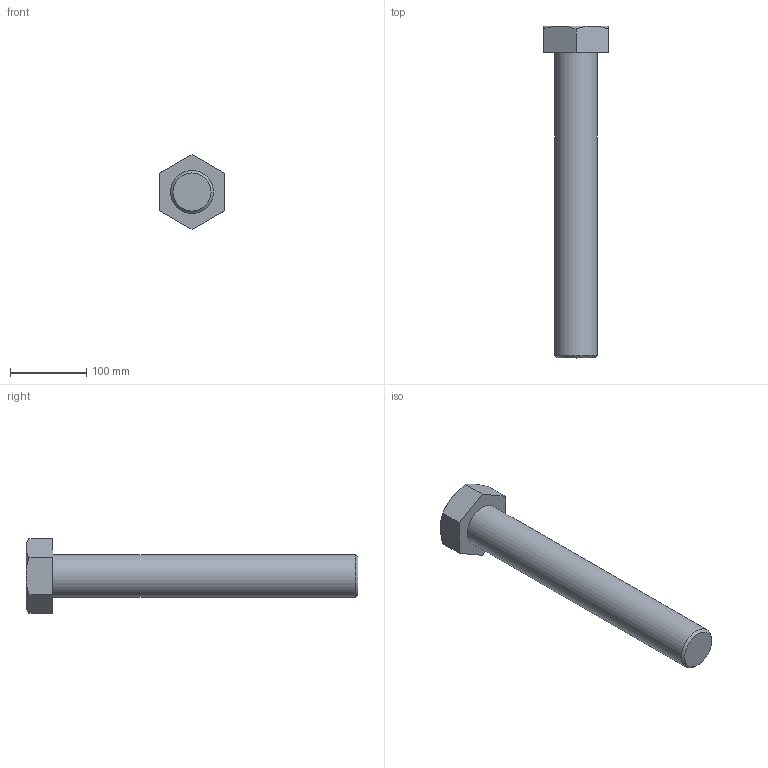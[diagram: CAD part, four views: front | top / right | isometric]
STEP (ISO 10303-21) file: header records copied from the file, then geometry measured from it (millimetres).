
FILE_DESCRIPTION(/* description */ (''),/* implementation_level */ '2;1');
FILE_NAME(/* name */ 'C:\Users\unitec\Documents\Inventor\各種小物\JIS\JIS B 1180 六角ボルト 等級C\hbc56\M56x400.stp',/* time_stamp */ '2015-02-13T15:00:18+09:00',/* author */ ('unitec'),/* organization */ (''),/* preprocessor_version */ 'ST-DEVELOPER v15.2',/* originating_system */ 'Autodesk Inventor 2014',/* authorisation */ '');
FILE_SCHEMA (('AUTOMOTIVE_DESIGN { 1 0 10303 214 3 1 1 }'));
Length unit declared in the file: millimetre
Products named in the file (1): M56x400
Bounding box: 85 x 435 x 98.15 mm (x, y, z)
Volume: 1202734.2 mm3; surface area: 92569.5 mm2
Topology: 1 solids, 1 shells, 17 faces, 35 edges, 21 vertices
Faces by surface type: plane 9, cone 7, cylinder 1
Full cylindrical faces by diameter (mm): 56 x1
Entity records: 441 total; most frequent: CARTESIAN_POINT 96, ORIENTED_EDGE 66, DIRECTION 66, EDGE_CURVE 33, AXIS2_PLACEMENT_3D 27, VERTEX_POINT 21, EDGE_LOOP 20, ADVANCED_FACE 17
